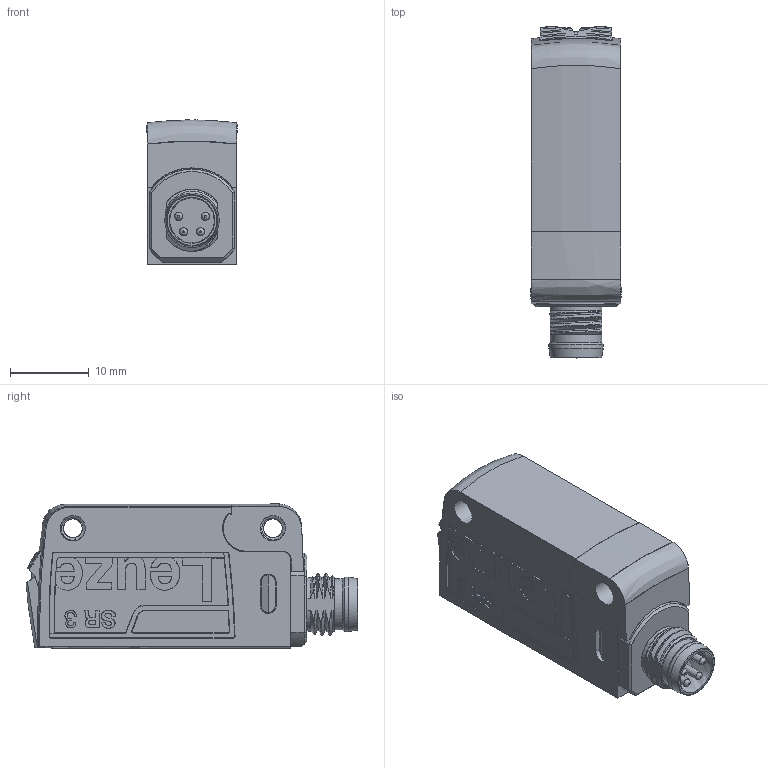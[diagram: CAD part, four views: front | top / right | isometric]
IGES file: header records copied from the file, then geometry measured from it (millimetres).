
Global section: file name: E:\lem\3DCAD_BR3C_M8_socket.igs; native system: NX V8.5; preprocessor: SIEMENS PLM Software NX 8.5; date: 20160205.144227; units: millimetre
Bounding box: 11.44 x 42.14 x 18.3 mm (x, y, z)
Surface area: 3397 mm2 (no closed solid volume)
Topology: 0 solids, 0 shells, 565 faces, 3157 edges, 3105 vertices
Faces by surface type: bspline 565
